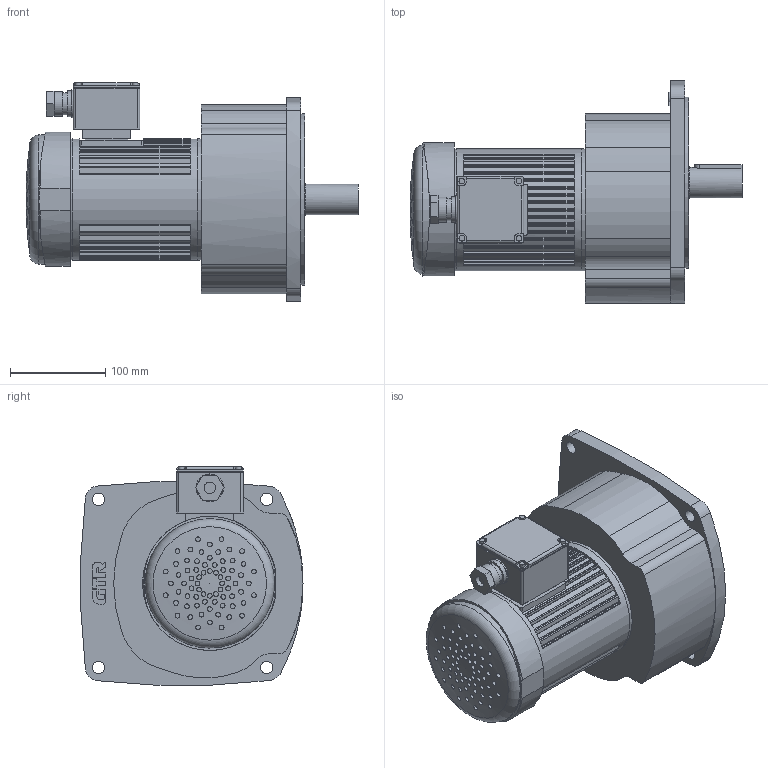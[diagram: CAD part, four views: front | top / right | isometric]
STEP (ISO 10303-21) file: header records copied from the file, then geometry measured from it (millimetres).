
FILE_DESCRIPTION( ( 'STEP AP203' ), ' ' );
FILE_NAME( 'p:/temp/worker_421/2372_356/app_56_02016063013523975224613192d056f_000000_00_00_000000/format_0/G3FM-32-100-T040A.stp', '2016-06-30T11:52:45', ( '' ), ( '' ), ' ', 'PARTsolutions', ' ' );
FILE_SCHEMA( ( 'CONFIG_CONTROL_DESIGN' ) );
Length unit declared in the file: millimetre
Products named in the file (7): G3FM-32-100-T040A; _GF32; _SP032G; HI_T040; HI_040M; _A-BOX(aluminum)(T50); _KEY 32
Assembly tree (6 placements, depth 2):
  G3FM-32-100-T040A
    _GF32
    _SP032G
    HI_T040
    HI_040M
    _A-BOX(aluminum)(T50)
    _KEY 32
Bounding box: 349 x 233.43 x 229.45 mm (x, y, z)
Volume: 6299914 mm3; surface area: 415260.7 mm2
Topology: 6 solids, 6 shells, 669 faces, 1675 edges, 1133 vertices
Faces by surface type: cylinder 341, plane 324, torus 3, sphere 1
Full cylindrical faces by diameter (mm): 5 x72, 6 x4, 12 x1, 13 x4, 23 x1, 26 x1, 27 x1, 29 x1, 32 x1, 34 x1, 88 x1, 128 x3, 136 x1, 168 x1, 180 x1
Entity records: 23910 total; most frequent: CARTESIAN_POINT 8055, DIRECTION 3434, ORIENTED_EDGE 2978, EDGE_CURVE 1489, AXIS2_PLACEMENT_3D 1362, VERTEX_POINT 1047, EDGE_LOOP 891, FACE_OUTER_BOUND 764
